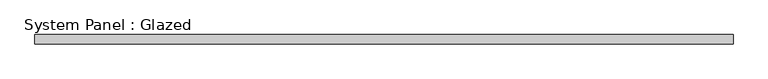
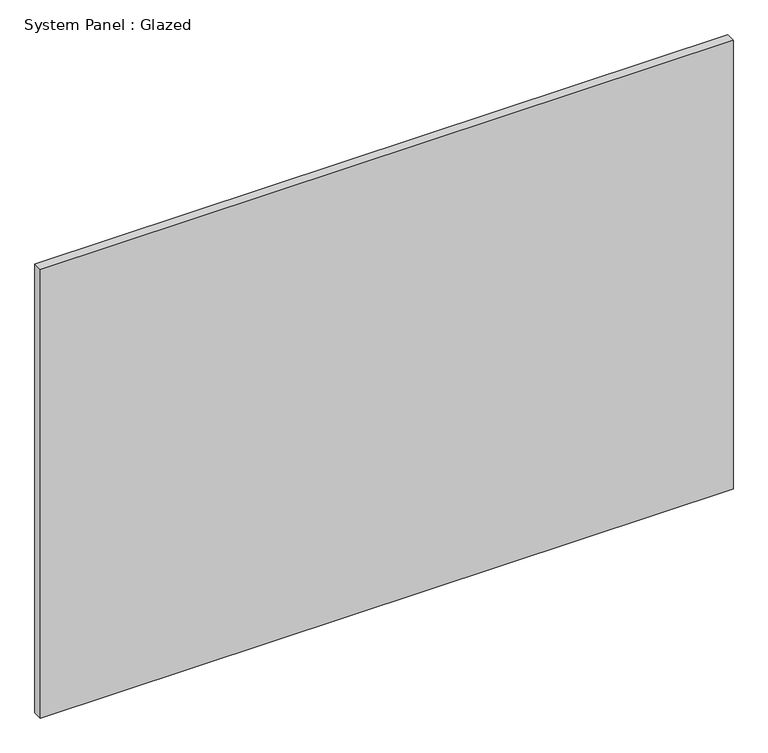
"""IFC4 building model written with IfcOpenShell, lengths in millimetres: plate geometry, System Panel : Glazed."""

from ifc_helpers import new_model, si_unit, origin, origin_with_axes, place, context, project, spatial, polyline, outline, extrude, source, transform, mapped, element, save


def system_panel_glazed_fd5f4e28(model_context):
    return source(origin(), model_context, "Body", "SweptSolid", [
        extrude(outline(polyline([(912.5, 24.5), (-912.5, 24.5), (-912.5, 49.5), (912.5, 49.5), (912.5, 24.5)])), origin_with_axes(), (0.0, 0.0, 1.0), 1250.0),
    ])


if __name__ == "__main__":
    model = new_model("IFC4")
    model_context = context("Model", 3, world=origin())
    ifc_project = project(units=[si_unit("LENGTHUNIT", "METRE", prefix="MILLI")], contexts=[model_context])
    site = spatial("IfcSite", under=ifc_project)
    building = spatial("IfcBuilding", under=site)
    placement = place(None, origin())
    system_panel_glazed_shape = system_panel_glazed_fd5f4e28(model_context)
    element("IfcPlate", 1, ObjectType="System Panel : Glazed", at=placement, inside=building, context=model_context, shape_type="MappedRepresentation", body=[
        mapped(system_panel_glazed_shape, transform((0.0, 0.0, 0.0), x_axis=(1.0, 0.0, 0.0), y_axis=(0.0, 1.0, 0.0), z_axis=(0.0, 0.0, 1.0))),
    ])
    save(model, "model.ifc")
